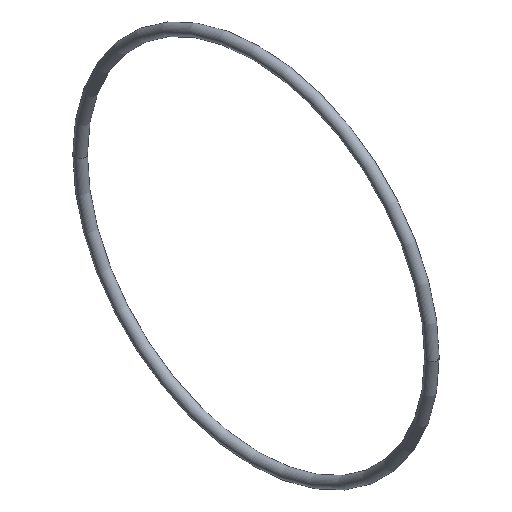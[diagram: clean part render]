
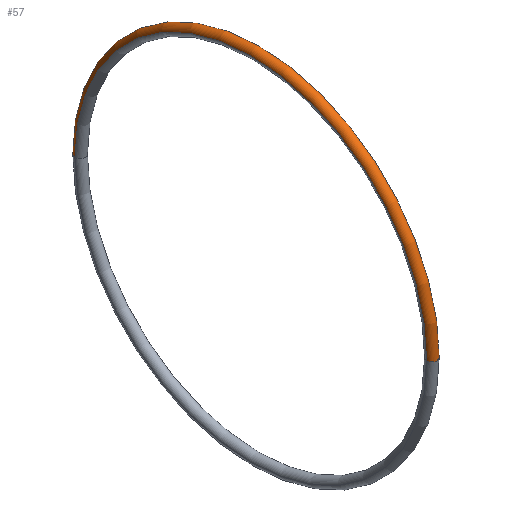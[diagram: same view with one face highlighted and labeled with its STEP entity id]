
A CAD part, isometric view. The second image highlights one B-rep face of the part: STEP entity #57.
In plain terms, the highlighted toroidal (fillet/blend) face has major radius 53.925 mm and minor radius 1.59 mm.
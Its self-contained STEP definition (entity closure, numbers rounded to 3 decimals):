
#57=ADVANCED_FACE('',(#61),#85,.T.);
#61=FACE_OUTER_BOUND('',#65,.F.);
#65=EDGE_LOOP('',(#78,#79,#80,#81));
#78=ORIENTED_EDGE('',*,*,#90,.T.);
#79=ORIENTED_EDGE('',*,*,#93,.F.);
#80=ORIENTED_EDGE('',*,*,#91,.T.);
#81=ORIENTED_EDGE('',*,*,#92,.T.);
#85=TOROIDAL_SURFACE('',#119,53.925,1.59);
#90=EDGE_CURVE('',#105,#103,#98,.T.);
#91=EDGE_CURVE('',#102,#104,#99,.T.);
#92=EDGE_CURVE('',#104,#105,#100,.T.);
#93=EDGE_CURVE('',#102,#103,#101,.T.);
#98=CIRCLE('',#112,1.59);
#99=CIRCLE('',#113,1.59);
#100=CIRCLE('',#114,53.925);
#101=CIRCLE('',#115,53.925);
#102=VERTEX_POINT('',#150);
#103=VERTEX_POINT('',#151);
#104=VERTEX_POINT('',#152);
#105=VERTEX_POINT('',#153);
#112=AXIS2_PLACEMENT_3D('',#158,#131,#132);
#113=AXIS2_PLACEMENT_3D('',#159,#133,#134);
#114=AXIS2_PLACEMENT_3D('',#160,#135,#136);
#115=AXIS2_PLACEMENT_3D('',#161,#137,#138);
#119=AXIS2_PLACEMENT_3D('',#165,#145,#146);
#131=DIRECTION('',(0.,0.,-1.));
#132=DIRECTION('',(1.,0.,0.));
#133=DIRECTION('',(0.,0.,-1.));
#134=DIRECTION('',(-1.,0.,0.));
#135=DIRECTION('',(1.,0.,0.));
#136=DIRECTION('',(0.,1.,0.));
#137=DIRECTION('',(1.,0.,0.));
#138=DIRECTION('',(0.,1.,0.));
#145=DIRECTION('',(1.,0.,0.));
#146=DIRECTION('',(0.,1.,0.));
#150=CARTESIAN_POINT('',(3.41,53.925,0.));
#151=CARTESIAN_POINT('',(3.41,-53.925,0.));
#152=CARTESIAN_POINT('',(6.59,53.925,0.));
#153=CARTESIAN_POINT('',(6.59,-53.925,0.));
#158=CARTESIAN_POINT('',(5.,-53.925,0.));
#159=CARTESIAN_POINT('',(5.,53.925,0.));
#160=CARTESIAN_POINT('',(6.59,0.,0.));
#161=CARTESIAN_POINT('',(3.41,0.,0.));
#165=CARTESIAN_POINT('',(5.,0.,0.));
